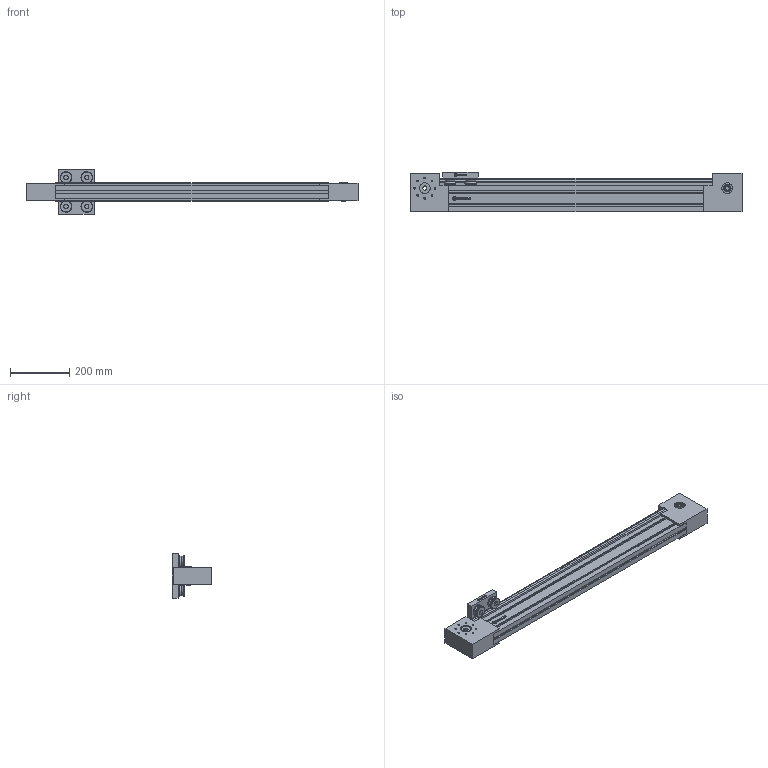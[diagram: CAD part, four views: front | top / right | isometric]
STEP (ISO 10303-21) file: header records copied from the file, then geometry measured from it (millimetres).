
FILE_DESCRIPTION (( 'STEP AP214' ), '1' );
FILE_NAME ('WMAD-210-M-0800 (MDMY).STEP', '2017-12-20T09:01:31', ( 'Hidtek' ), ( '' ), 'SwSTEP 2.0', 'SolidWorks 2016', '' );
FILE_SCHEMA (( 'AUTOMOTIVE_DESIGN' ));
Length unit declared in the file: millimetre
Products named in the file (3): Group2^WMAD-210-M-0800 (MDMY); Group1^WMAD-210-M-0800 (MDMY); WMAD-210-M-0800 (MDMY)
Assembly tree (2 placements, depth 2):
  WMAD-210-M-0800 (MDMY)
    Group1^WMAD-210-M-0800 (MDMY)
    Group2^WMAD-210-M-0800 (MDMY)
Bounding box: 1120 x 134 x 150 mm (x, y, z)
Volume: 5848341.9 mm3; surface area: 779304.3 mm2
Topology: 20 solids, 20 shells, 857 faces, 2166 edges, 1393 vertices
Faces by surface type: plane 484, cylinder 164, cone 153, bspline 56
Entity records: 29799 total; most frequent: CARTESIAN_POINT 7543, ORIENTED_EDGE 4260, DIRECTION 4085, EDGE_CURVE 2130, VECTOR 1415, LINE 1415, VERTEX_POINT 1393, AXIS2_PLACEMENT_3D 1335
